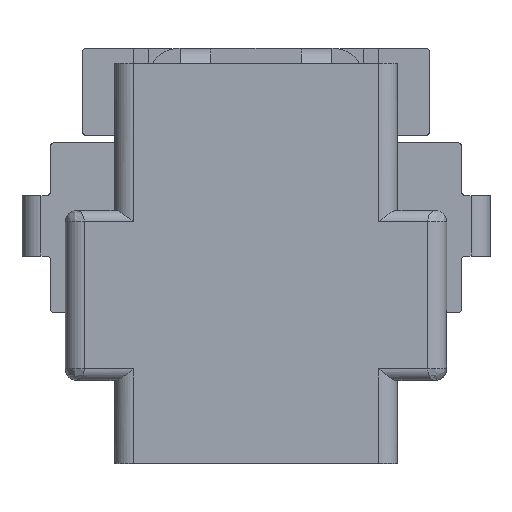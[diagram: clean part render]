
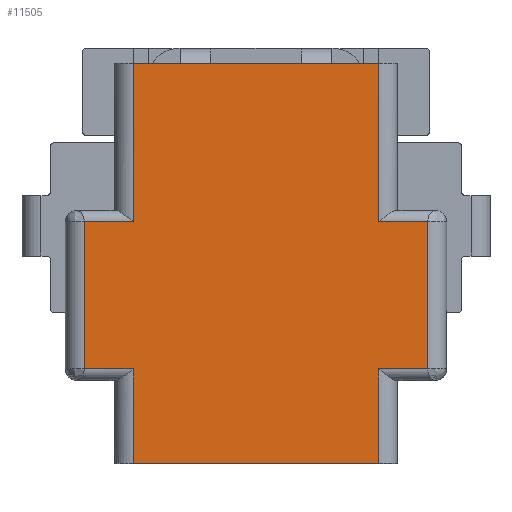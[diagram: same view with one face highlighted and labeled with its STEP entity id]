
A CAD part, top view. The second image highlights one B-rep face of the part: STEP entity #11505.
In plain terms, the highlighted planar face has unit normal (0, 0, 1).
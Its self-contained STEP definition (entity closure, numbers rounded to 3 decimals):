
#3136=CARTESIAN_POINT('',(4.55,-8.5,6.5));
#3152=DIRECTION('',(1.,0.,0.));
#3153=VECTOR('',#3152,1.3);
#3154=CARTESIAN_POINT('',(3.25,-8.5,6.5));
#3155=LINE('',#3154,#3153);
#3165=DIRECTION('',(0.,1.,0.));
#3166=VECTOR('',#3165,2.5);
#3167=CARTESIAN_POINT('',(3.25,-11.,6.5));
#3168=LINE('',#3167,#3166);
#3169=CARTESIAN_POINT('',(3.25,-8.5,6.5));
#3181=DIRECTION('',(1.,0.,0.));
#3182=VECTOR('',#3181,6.5);
#3183=CARTESIAN_POINT('',(-3.25,-0.4,6.5));
#3184=LINE('',#3183,#3182);
#3185=DIRECTION('',(0.,1.,0.));
#3186=VECTOR('',#3185,3.9);
#3187=CARTESIAN_POINT('',(4.55,-8.5,6.5));
#3188=LINE('',#3187,#3186);
#3269=DIRECTION('',(-1.,0.,0.));
#3270=VECTOR('',#3269,1.3);
#3271=CARTESIAN_POINT('',(4.55,-4.6,6.5));
#3272=LINE('',#3271,#3270);
#3285=DIRECTION('',(0.,1.,0.));
#3286=VECTOR('',#3285,4.2);
#3287=CARTESIAN_POINT('',(3.25,-4.6,6.5));
#3288=LINE('',#3287,#3286);
#3317=DIRECTION('',(0.,-1.,0.));
#3318=VECTOR('',#3317,4.2);
#3319=CARTESIAN_POINT('',(-3.25,-0.4,6.5));
#3320=LINE('',#3319,#3318);
#3349=DIRECTION('',(-1.,0.,0.));
#3350=VECTOR('',#3349,1.3);
#3351=CARTESIAN_POINT('',(-3.25,-4.6,6.5));
#3352=LINE('',#3351,#3350);
#3386=DIRECTION('',(0.,-1.,0.));
#3387=VECTOR('',#3386,3.9);
#3388=CARTESIAN_POINT('',(-4.55,-4.6,
6.5));
#3389=LINE('',#3388,#3387);
#3470=DIRECTION('',(1.,0.,0.));
#3471=VECTOR('',#3470,1.3);
#3472=CARTESIAN_POINT('',(-4.55,-8.5,
6.5));
#3473=LINE('',#3472,#3471);
#3486=DIRECTION('',(0.,-1.,0.));
#3487=VECTOR('',#3486,2.5);
#3488=CARTESIAN_POINT('',(-3.25,-8.5,6.5));
#3489=LINE('',#3488,#3487);
#3526=DIRECTION('',(1.,0.,0.));
#3527=VECTOR('',#3526,6.5);
#3528=CARTESIAN_POINT('',(-3.25,-11.,6.5));
#3529=LINE('',#3528,#3527);
#5864=VERTEX_POINT('',#3136);
#5867=VERTEX_POINT('',#3169);
#5868=CARTESIAN_POINT('',(3.25,-11.,6.5));
#5869=VERTEX_POINT('',#5868);
#5870=CARTESIAN_POINT('',(4.55,-4.6,6.5));
#5871=VERTEX_POINT('',#5870);
#5872=CARTESIAN_POINT('',(-3.25,-11.,6.5));
#5873=VERTEX_POINT('',#5872);
#5874=CARTESIAN_POINT('',(-3.25,-8.5,6.5));
#5875=VERTEX_POINT('',#5874);
#5876=CARTESIAN_POINT('',(-4.55,-8.5,
6.5));
#5877=VERTEX_POINT('',#5876);
#5878=CARTESIAN_POINT('',(-4.55,-4.6,
6.5));
#5879=VERTEX_POINT('',#5878);
#5880=CARTESIAN_POINT('',(-3.25,-4.6,6.5));
#5881=VERTEX_POINT('',#5880);
#5882=CARTESIAN_POINT('',(-3.25,-0.4,6.5));
#5883=VERTEX_POINT('',#5882);
#5884=CARTESIAN_POINT('',(3.25,-0.4,6.5));
#5885=VERTEX_POINT('',#5884);
#5886=CARTESIAN_POINT('',(3.25,-4.6,6.5));
#5887=VERTEX_POINT('',#5886);
#11476=CARTESIAN_POINT('',(3.75,-0.4,6.5));
#11477=DIRECTION('',(0.,0.,1.));
#11478=DIRECTION('',(-1.,0.,0.));
#11479=AXIS2_PLACEMENT_3D('',#11476,#11477,#11478);
#11480=PLANE('',#11479);
#11482=ORIENTED_EDGE('',*,*,#11481,.F.);
#11483=ORIENTED_EDGE('',*,*,#11421,.F.);
#11484=ORIENTED_EDGE('',*,*,#11459,.F.);
#11486=ORIENTED_EDGE('',*,*,#11485,.F.);
#11488=ORIENTED_EDGE('',*,*,#11487,.F.);
#11490=ORIENTED_EDGE('',*,*,#11489,.F.);
#11492=ORIENTED_EDGE('',*,*,#11491,.F.);
#11494=ORIENTED_EDGE('',*,*,#11493,.F.);
#11496=ORIENTED_EDGE('',*,*,#11495,.F.);
#11498=ORIENTED_EDGE('',*,*,#11497,.T.);
#11500=ORIENTED_EDGE('',*,*,#11499,.F.);
#11502=ORIENTED_EDGE('',*,*,#11501,.F.);
#11503=EDGE_LOOP('',(#11482,#11483,#11484,#11486,#11488,#11490,#11492,#11494,
#11496,#11498,#11500,#11502));
#11504=FACE_OUTER_BOUND('',#11503,.F.);
#11505=ADVANCED_FACE('',(#11504),#11480,.T.);
#11421=EDGE_CURVE('',#5867,#5864,#3155,.T.);
#11459=EDGE_CURVE('',#5869,#5867,#3168,.T.);
#11481=EDGE_CURVE('',#5864,#5871,#3188,.T.);
#11485=EDGE_CURVE('',#5873,#5869,#3529,.T.);
#11487=EDGE_CURVE('',#5875,#5873,#3489,.T.);
#11489=EDGE_CURVE('',#5877,#5875,#3473,.T.);
#11491=EDGE_CURVE('',#5879,#5877,#3389,.T.);
#11493=EDGE_CURVE('',#5881,#5879,#3352,.T.);
#11495=EDGE_CURVE('',#5883,#5881,#3320,.T.);
#11497=EDGE_CURVE('',#5883,#5885,#3184,.T.);
#11499=EDGE_CURVE('',#5887,#5885,#3288,.T.);
#11501=EDGE_CURVE('',#5871,#5887,#3272,.T.);
